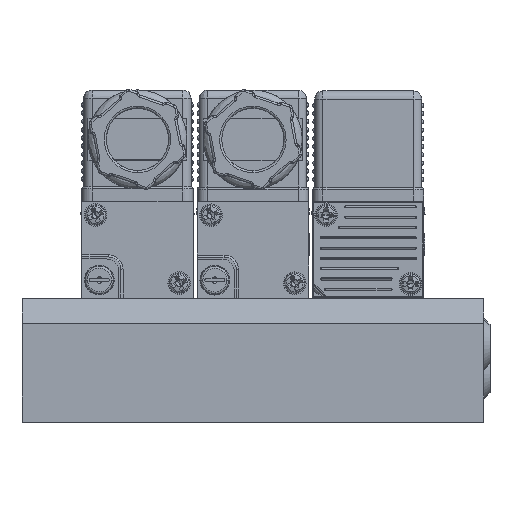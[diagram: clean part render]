
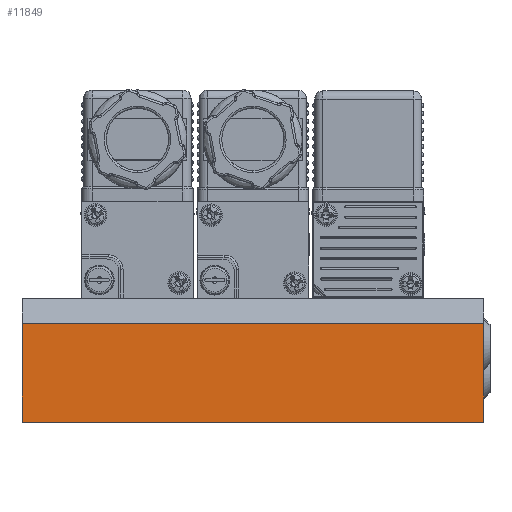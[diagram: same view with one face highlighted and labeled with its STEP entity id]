
A CAD part, top view. The second image highlights one B-rep face of the part: STEP entity #11849.
In plain terms, the highlighted planar face has unit normal (0, 0, 1).
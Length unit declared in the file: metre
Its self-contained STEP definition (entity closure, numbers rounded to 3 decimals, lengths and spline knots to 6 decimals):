
#411 = EDGE_CURVE ( 'NONE', #18531, #23739, #21240, .T. ) ;
#2070 = DIRECTION ( 'NONE',  ( -1., 0., 0. ) ) ;
#2477 = EDGE_LOOP ( 'NONE', ( #7055, #5708, #6203, #28810 ) ) ;
#2683 = VERTEX_POINT ( 'NONE', #29584 ) ;
#2714 = VECTOR ( 'NONE', #20990, 1. ) ;
#4403 = CARTESIAN_POINT ( 'NONE',  ( 0., 0.009, 0.035 ) ) ;
#5708 = ORIENTED_EDGE ( 'NONE', *, *, #28331, .F. ) ;
#5868 = VERTEX_POINT ( 'NONE', #26460 ) ;
#6203 = ORIENTED_EDGE ( 'NONE', *, *, #8724, .F. ) ;
#7055 = ORIENTED_EDGE ( 'NONE', *, *, #27327, .T. ) ;
#8018 = DIRECTION ( 'NONE',  ( -1., 0., 0. ) ) ;
#8724 = EDGE_CURVE ( 'NONE', #18531, #5868, #29686, .T. ) ;
#10197 = LINE ( 'NONE', #13260, #21967 ) ;
#11773 = VECTOR ( 'NONE', #8018, 1. ) ;
#11849 = ADVANCED_FACE ( 'NONE', ( #19047 ), #30310, .F. ) ;
#12983 = AXIS2_PLACEMENT_3D ( 'NONE', #27421, #16383, #2070 ) ;
#13260 = CARTESIAN_POINT ( 'NONE',  ( -0.056, -0.003, 0.035 ) ) ;
#15046 = VECTOR ( 'NONE', #26632, 1. ) ;
#16383 = DIRECTION ( 'NONE',  ( 0., 0., -1. ) ) ;
#17823 = CARTESIAN_POINT ( 'NONE',  ( 0.056, -0.015, 0.035 ) ) ;
#18531 = VERTEX_POINT ( 'NONE', #17823 ) ;
#18819 = CARTESIAN_POINT ( 'NONE',  ( 0.056, 0., 0.035 ) ) ;
#19047 = FACE_OUTER_BOUND ( 'NONE', #2477, .T. ) ;
#20411 = CARTESIAN_POINT ( 'NONE',  ( 0.056, 0.009, 0.035 ) ) ;
#20901 = LINE ( 'NONE', #4403, #2714 ) ;
#20990 = DIRECTION ( 'NONE',  ( -1., 0., 0. ) ) ;
#21240 = LINE ( 'NONE', #18819, #15046 ) ;
#21967 = VECTOR ( 'NONE', #27275, 1. ) ;
#23739 = VERTEX_POINT ( 'NONE', #20411 ) ;
#24655 = CARTESIAN_POINT ( 'NONE',  ( 0., -0.015, 0.035 ) ) ;
#26460 = CARTESIAN_POINT ( 'NONE',  ( -0.056, -0.015, 0.035 ) ) ;
#26632 = DIRECTION ( 'NONE',  ( 0., 1., 0. ) ) ;
#27275 = DIRECTION ( 'NONE',  ( 0., 1., 0. ) ) ;
#27327 = EDGE_CURVE ( 'NONE', #23739, #2683, #20901, .T. ) ;
#27421 = CARTESIAN_POINT ( 'NONE',  ( 0.056, -0.015, 0.035 ) ) ;
#28331 = EDGE_CURVE ( 'NONE', #5868, #2683, #10197, .T. ) ;
#28810 = ORIENTED_EDGE ( 'NONE', *, *, #411, .T. ) ;
#29584 = CARTESIAN_POINT ( 'NONE',  ( -0.056, 0.009, 0.035 ) ) ;
#29686 = LINE ( 'NONE', #24655, #11773 ) ;
#30310 = PLANE ( 'NONE',  #12983 ) ;
